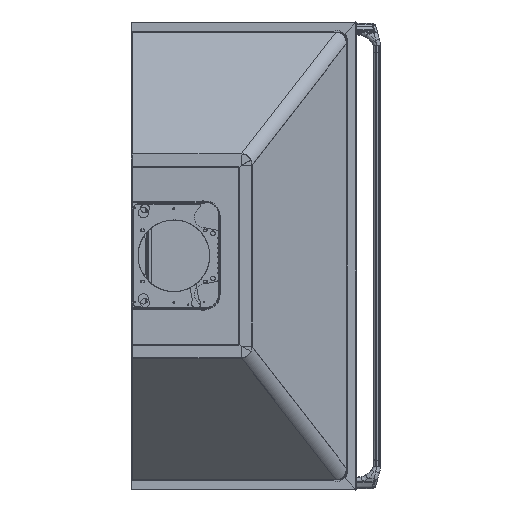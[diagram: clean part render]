
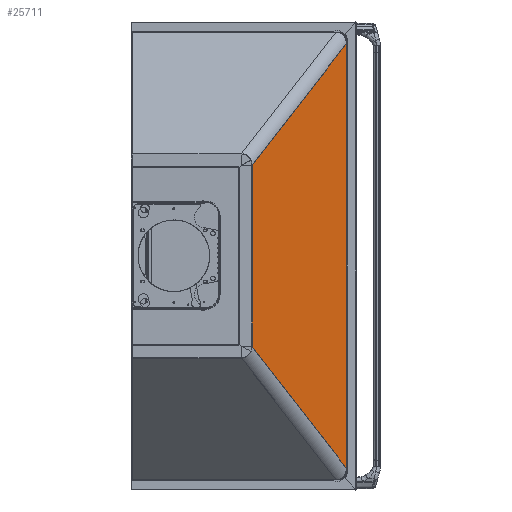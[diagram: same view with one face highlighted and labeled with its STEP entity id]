
A CAD part, top view. The second image highlights one B-rep face of the part: STEP entity #25711.
In plain terms, the highlighted planar face has unit normal (0.81, 0, 0.587) as drawn and (0, -0.81, 0.587) by its records, which use the part's own axes.
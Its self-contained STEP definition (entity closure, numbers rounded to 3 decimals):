
#22228=CARTESIAN_POINT('Vertex',(452.759,-458.54,0.)) ;
#22252=CARTESIAN_POINT('Vertex',(192.819,-257.509,277.298)) ;
#22283=CARTESIAN_POINT('Vertex',(-192.819,-257.509,277.298)) ;
#22314=CARTESIAN_POINT('Vertex',(451.759,-458.232,0.425)) ;
#22352=CARTESIAN_POINT('Vertex',(-451.759,-458.232,0.425)) ;
#22588=CARTESIAN_POINT('Vertex',(192.819,-257.,278.)) ;
#24859=CARTESIAN_POINT('Vertex',(-452.759,-458.54,0.)) ;
#24880=CARTESIAN_POINT('Line Origine',(0.,-257.509,277.298)) ;
#24901=CARTESIAN_POINT('Vertex',(-451.759,-458.54,0.)) ;
#24906=CARTESIAN_POINT('Line Origine',(-452.259,-458.54,0.)) ;
#24928=CARTESIAN_POINT('Line Origine',(-451.759,-458.386,0.212)) ;
#24950=CARTESIAN_POINT('Line Origine',(451.759,-458.386,0.212)) ;
#24954=CARTESIAN_POINT('Vertex',(451.759,-458.54,0.)) ;
#24981=CARTESIAN_POINT('Line Origine',(452.259,-458.54,0.)) ;
#24998=CARTESIAN_POINT('Line Origine',(192.819,-257.255,277.649)) ;
#25020=CARTESIAN_POINT('Line Origine',(-192.819,-257.255,277.649)) ;
#25024=CARTESIAN_POINT('Vertex',(-192.819,-257.,278.)) ;
#25051=CARTESIAN_POINT('Line Origine',(0.,-458.232,0.425)) ;
#25068=CARTESIAN_POINT('Line Origine',(324.167,-358.839,137.526)) ;
#25689=CARTESIAN_POINT('Axis2P3D Location',(0.,-300.569,217.902)) ;
#25694=CARTESIAN_POINT('Line Origine',(-322.789,-357.77,139.)) ;
#24881=DIRECTION('Vector Direction',(-1.,0.,0.)) ;
#24907=DIRECTION('Vector Direction',(-1.,0.,0.)) ;
#24929=DIRECTION('Vector Direction',(0.,-0.587,-0.81)) ;
#24951=DIRECTION('Vector Direction',(0.,0.587,0.81)) ;
#24982=DIRECTION('Vector Direction',(-1.,0.,0.)) ;
#24999=DIRECTION('Vector Direction',(0.,-0.587,-0.81)) ;
#25021=DIRECTION('Vector Direction',(0.,0.587,0.81)) ;
#25052=DIRECTION('Vector Direction',(1.,0.,0.)) ;
#25069=DIRECTION('Vector Direction',(0.604,-0.468,-0.646)) ;
#25690=DIRECTION('Axis2P3D Direction',(0.,-0.81,0.587)) ;
#25691=DIRECTION('Axis2P3D XDirection',(1.,0.,0.)) ;
#25695=DIRECTION('Vector Direction',(0.604,0.468,0.646)) ;
#25692=AXIS2_PLACEMENT_3D('Plane Axis2P3D',#25689,#25690,#25691) ;
#25700=ORIENTED_EDGE('',*,*,#24932,.F.) ;
#25701=ORIENTED_EDGE('',*,*,#25055,.T.) ;
#25702=ORIENTED_EDGE('',*,*,#24956,.F.) ;
#25703=ORIENTED_EDGE('',*,*,#24985,.F.) ;
#25704=ORIENTED_EDGE('',*,*,#25072,.F.) ;
#25705=ORIENTED_EDGE('',*,*,#25002,.T.) ;
#25706=ORIENTED_EDGE('',*,*,#24884,.T.) ;
#25707=ORIENTED_EDGE('',*,*,#25026,.T.) ;
#25708=ORIENTED_EDGE('',*,*,#25698,.F.) ;
#25709=ORIENTED_EDGE('',*,*,#24910,.F.) ;
#24882=VECTOR('Line Direction',#24881,1.) ;
#24908=VECTOR('Line Direction',#24907,1.) ;
#24930=VECTOR('Line Direction',#24929,1.) ;
#24952=VECTOR('Line Direction',#24951,1.) ;
#24983=VECTOR('Line Direction',#24982,1.) ;
#25000=VECTOR('Line Direction',#24999,1.) ;
#25022=VECTOR('Line Direction',#25021,1.) ;
#25053=VECTOR('Line Direction',#25052,1.) ;
#25070=VECTOR('Line Direction',#25069,1.) ;
#25696=VECTOR('Line Direction',#25695,1.) ;
#25711=ADVANCED_FACE('PartBody',(#25710),#25693,.T.) ;
#24884=EDGE_CURVE('',#22253,#22284,#24883,.T.) ;
#24910=EDGE_CURVE('',#24902,#24860,#24909,.T.) ;
#24932=EDGE_CURVE('',#22353,#24902,#24931,.T.) ;
#24956=EDGE_CURVE('',#24955,#22315,#24953,.T.) ;
#24985=EDGE_CURVE('',#22229,#24955,#24984,.T.) ;
#25002=EDGE_CURVE('',#22589,#22253,#25001,.T.) ;
#25026=EDGE_CURVE('',#22284,#25025,#25023,.T.) ;
#25055=EDGE_CURVE('',#22353,#22315,#25054,.T.) ;
#25072=EDGE_CURVE('',#22589,#22229,#25071,.T.) ;
#25698=EDGE_CURVE('',#24860,#25025,#25697,.T.) ;
#25699=EDGE_LOOP('',(#25700,#25701,#25702,#25703,#25704,#25705,#25706,#25707,#25708,#25709)) ;
#25710=FACE_OUTER_BOUND('',#25699,.T.) ;
#24883=LINE('Line',#24880,#24882) ;
#24909=LINE('Line',#24906,#24908) ;
#24931=LINE('Line',#24928,#24930) ;
#24953=LINE('Line',#24950,#24952) ;
#24984=LINE('Line',#24981,#24983) ;
#25001=LINE('Line',#24998,#25000) ;
#25023=LINE('Line',#25020,#25022) ;
#25054=LINE('Line',#25051,#25053) ;
#25071=LINE('Line',#25068,#25070) ;
#25697=LINE('Line',#25694,#25696) ;
#25693=PLANE('',#25692) ;
#22229=VERTEX_POINT('',#22228) ;
#22253=VERTEX_POINT('',#22252) ;
#22284=VERTEX_POINT('',#22283) ;
#22315=VERTEX_POINT('',#22314) ;
#22353=VERTEX_POINT('',#22352) ;
#22589=VERTEX_POINT('',#22588) ;
#24860=VERTEX_POINT('',#24859) ;
#24902=VERTEX_POINT('',#24901) ;
#24955=VERTEX_POINT('',#24954) ;
#25025=VERTEX_POINT('',#25024) ;
